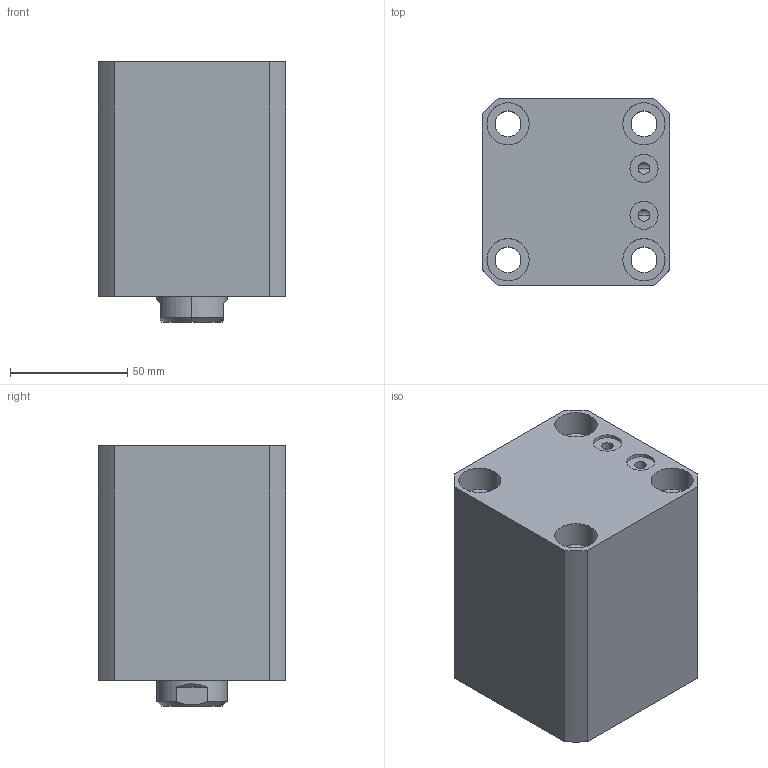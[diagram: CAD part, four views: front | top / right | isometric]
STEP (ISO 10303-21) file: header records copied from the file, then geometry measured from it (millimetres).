
FILE_DESCRIPTION (( 'STEP AP203' ), '1' );
FILE_NAME ('CHTB-SDMB50-40N.STEP', '2018-05-19T05:36:08', ( '' ), ( '' ), 'SwSTEP 2.0', 'SolidWorks 2015', '' );
FILE_SCHEMA (( 'CONFIG_CONTROL_DESIGN' ));
Length unit declared in the file: millimetre
Products named in the file (5): CHTB-SDMB50-40N; M6; CHTM-SDMA50QG; 活塞杆SDMB50-40N; 掛极SDMB50-40N
Assembly tree (5 placements, depth 2):
  CHTB-SDMB50-40N
    掛极SDMB50-40N
    活塞杆SDMB50-40N
    CHTM-SDMA50QG
    M6  x2
Bounding box: 80 x 80 x 111 mm (x, y, z)
Volume: 527476.5 mm3; surface area: 106525.3 mm2
Topology: 5 solids, 5 shells, 263 faces, 693 edges, 458 vertices
Faces by surface type: cylinder 135, plane 55, cone 31, bspline 26, torus 16
Entity records: 13963 total; most frequent: CARTESIAN_POINT 8102, ORIENTED_EDGE 1188, DIRECTION 1016, EDGE_CURVE 594, AXIS2_PLACEMENT_3D 416, VERTEX_POINT 397, EDGE_LOOP 269, ADVANCED_FACE 228
